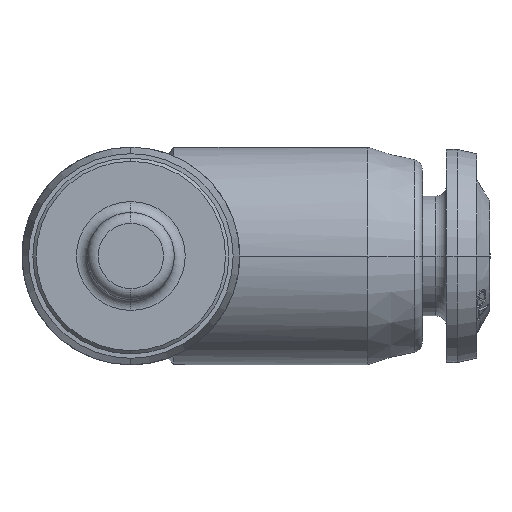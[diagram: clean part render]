
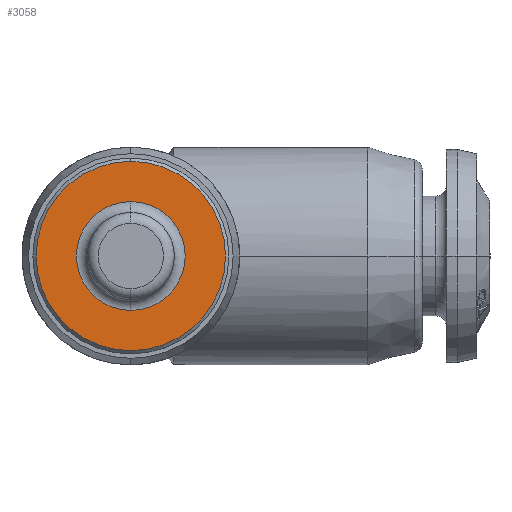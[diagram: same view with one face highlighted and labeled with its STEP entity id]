
A CAD part, left-side view. The second image highlights one B-rep face of the part: STEP entity #3058.
In plain terms, the highlighted planar face has unit normal (-1, 0, 0).
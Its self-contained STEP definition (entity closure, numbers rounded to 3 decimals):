
#251 = DIRECTION ( 'NONE',  ( -1., 0., 0. ) ) ;
#1264 = DIRECTION ( 'NONE',  ( 0., 0., -1. ) ) ;
#1550 = AXIS2_PLACEMENT_3D ( 'NONE', #3955, #9345, #5591 ) ;
#2725 = ORIENTED_EDGE ( 'NONE', *, *, #6682, .T. ) ;
#3037 = VERTEX_POINT ( 'NONE', #18326 ) ;
#3058 = ADVANCED_FACE ( 'NONE', ( #9324, #7563 ), #14760, .T. ) ;
#3344 = DIRECTION ( 'NONE',  ( 1., 0., 0. ) ) ;
#3750 = VERTEX_POINT ( 'NONE', #21282 ) ;
#3955 = CARTESIAN_POINT ( 'NONE',  ( -12.8, 0., 0. ) ) ;
#5591 = DIRECTION ( 'NONE',  ( 0., 0., -1. ) ) ;
#5616 = VERTEX_POINT ( 'NONE', #10065 ) ;
#5679 = CIRCLE ( 'NONE', #1550, 4.35 ) ;
#5828 = ORIENTED_EDGE ( 'NONE', *, *, #19715, .T. ) ;
#5979 = EDGE_CURVE ( 'NONE', #3037, #19733, #17116, .T. ) ;
#6682 = EDGE_CURVE ( 'NONE', #3750, #5616, #11864, .T. ) ;
#7335 = AXIS2_PLACEMENT_3D ( 'NONE', #13205, #251, #11542 ) ;
#7563 = FACE_BOUND ( 'NONE', #10656, .T. ) ;
#8745 = DIRECTION ( 'NONE',  ( 0., 0., -1. ) ) ;
#9324 = FACE_OUTER_BOUND ( 'NONE', #16643, .T. ) ;
#9345 = DIRECTION ( 'NONE',  ( -1., 0., 0. ) ) ;
#9447 = CIRCLE ( 'NONE', #14001, 2.5 ) ;
#9904 = CARTESIAN_POINT ( 'NONE',  ( -12.8, -4.5, 0. ) ) ;
#10065 = CARTESIAN_POINT ( 'NONE',  ( -12.8, 0., -4.35 ) ) ;
#10656 = EDGE_LOOP ( 'NONE', ( #13639, #14110 ) ) ;
#11542 = DIRECTION ( 'NONE',  ( 0., 0., -1. ) ) ;
#11864 = CIRCLE ( 'NONE', #7335, 4.35 ) ;
#12063 = EDGE_CURVE ( 'NONE', #19733, #3037, #9447, .T. ) ;
#12794 = CARTESIAN_POINT ( 'NONE',  ( -12.8, 0., 2.5 ) ) ;
#13205 = CARTESIAN_POINT ( 'NONE',  ( -12.8, 0., 0. ) ) ;
#13639 = ORIENTED_EDGE ( 'NONE', *, *, #5979, .T. ) ;
#14001 = AXIS2_PLACEMENT_3D ( 'NONE', #17653, #19302, #1264 ) ;
#14110 = ORIENTED_EDGE ( 'NONE', *, *, #12063, .T. ) ;
#14760 = PLANE ( 'NONE',  #22356 ) ;
#15102 = DIRECTION ( 'NONE',  ( 0., 0., -1. ) ) ;
#15941 = CARTESIAN_POINT ( 'NONE',  ( -12.8, 0., 0. ) ) ;
#16643 = EDGE_LOOP ( 'NONE', ( #2725, #5828 ) ) ;
#17116 = CIRCLE ( 'NONE', #20130, 2.5 ) ;
#17653 = CARTESIAN_POINT ( 'NONE',  ( -12.8, 0., 0. ) ) ;
#18326 = CARTESIAN_POINT ( 'NONE',  ( -12.8, 0., -2.5 ) ) ;
#19302 = DIRECTION ( 'NONE',  ( 1., 0., 0. ) ) ;
#19715 = EDGE_CURVE ( 'NONE', #5616, #3750, #5679, .T. ) ;
#19733 = VERTEX_POINT ( 'NONE', #12794 ) ;
#20130 = AXIS2_PLACEMENT_3D ( 'NONE', #15941, #3344, #8745 ) ;
#21282 = CARTESIAN_POINT ( 'NONE',  ( -12.8, 0., 4.35 ) ) ;
#22356 = AXIS2_PLACEMENT_3D ( 'NONE', #9904, #22463, #15102 ) ;
#22463 = DIRECTION ( 'NONE',  ( -1., 0., 0. ) ) ;
